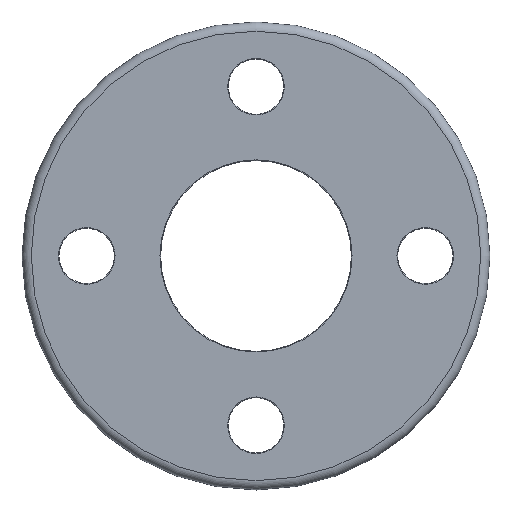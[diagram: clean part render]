
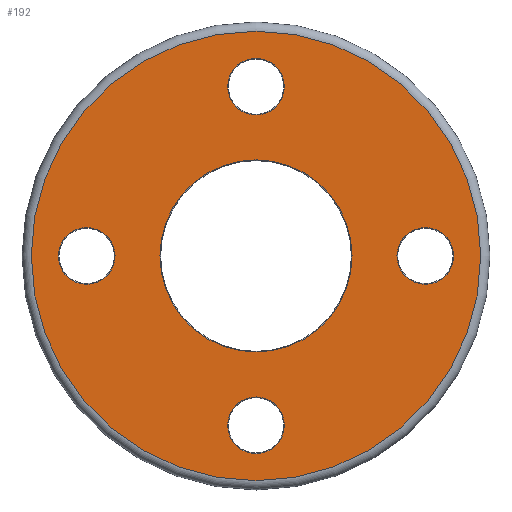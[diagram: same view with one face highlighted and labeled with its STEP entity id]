
A CAD part, top view. The second image highlights one B-rep face of the part: STEP entity #192.
In plain terms, the highlighted planar face has unit normal (0, 0, 1).
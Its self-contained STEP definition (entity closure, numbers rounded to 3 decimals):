
#21=PLANE('',#210);
#24=FACE_BOUND('',#62,.T.);
#25=FACE_BOUND('',#63,.T.);
#26=FACE_BOUND('',#64,.T.);
#27=FACE_BOUND('',#65,.T.);
#28=FACE_BOUND('',#66,.T.);
#46=FACE_OUTER_BOUND('',#61,.T.);
#61=EDGE_LOOP('',(#151));
#62=EDGE_LOOP('',(#152));
#63=EDGE_LOOP('',(#153));
#64=EDGE_LOOP('',(#154));
#65=EDGE_LOOP('',(#155));
#66=EDGE_LOOP('',(#156));
#96=CIRCLE('',#209,31.2);
#97=CIRCLE('',#211,73.);
#98=CIRCLE('',#212,9.2);
#99=CIRCLE('',#213,9.2);
#100=CIRCLE('',#214,9.2);
#101=CIRCLE('',#215,9.2);
#114=VERTEX_POINT('',#309);
#115=VERTEX_POINT('',#312);
#116=VERTEX_POINT('',#314);
#117=VERTEX_POINT('',#316);
#118=VERTEX_POINT('',#318);
#119=VERTEX_POINT('',#320);
#132=EDGE_CURVE('',#114,#114,#96,.T.);
#133=EDGE_CURVE('',#115,#115,#97,.T.);
#134=EDGE_CURVE('',#116,#116,#98,.T.);
#135=EDGE_CURVE('',#117,#117,#99,.T.);
#136=EDGE_CURVE('',#118,#118,#100,.T.);
#137=EDGE_CURVE('',#119,#119,#101,.T.);
#151=ORIENTED_EDGE('',*,*,#133,.F.);
#152=ORIENTED_EDGE('',*,*,#134,.F.);
#153=ORIENTED_EDGE('',*,*,#135,.F.);
#154=ORIENTED_EDGE('',*,*,#136,.F.);
#155=ORIENTED_EDGE('',*,*,#137,.F.);
#156=ORIENTED_EDGE('',*,*,#132,.F.);
#192=ADVANCED_FACE('',(#46,#24,#25,#26,#27,#28),#21,.T.);
#209=AXIS2_PLACEMENT_3D('',#310,#245,#246);
#210=AXIS2_PLACEMENT_3D('',#311,#247,#248);
#211=AXIS2_PLACEMENT_3D('',#313,#249,#250);
#212=AXIS2_PLACEMENT_3D('',#315,#251,#252);
#213=AXIS2_PLACEMENT_3D('',#317,#253,#254);
#214=AXIS2_PLACEMENT_3D('',#319,#255,#256);
#215=AXIS2_PLACEMENT_3D('',#321,#257,#258);
#245=DIRECTION('center_axis',(0.,0.,1.));
#246=DIRECTION('ref_axis',(-1.,0.,0.));
#247=DIRECTION('center_axis',(0.,0.,1.));
#248=DIRECTION('ref_axis',(1.,0.,0.));
#249=DIRECTION('center_axis',(0.,0.,-1.));
#250=DIRECTION('ref_axis',(-1.,0.,0.));
#251=DIRECTION('center_axis',(0.,0.,1.));
#252=DIRECTION('ref_axis',(1.,0.,0.));
#253=DIRECTION('center_axis',(0.,0.,1.));
#254=DIRECTION('ref_axis',(-1.,0.,0.));
#255=DIRECTION('center_axis',(0.,0.,1.));
#256=DIRECTION('ref_axis',(0.,-1.,0.));
#257=DIRECTION('center_axis',(0.,0.,1.));
#258=DIRECTION('ref_axis',(0.,1.,0.));
#309=CARTESIAN_POINT('',(31.2,0.,16.));
#310=CARTESIAN_POINT('Origin',(0.,0.,16.));
#311=CARTESIAN_POINT('Origin',(0.,0.,
16.));
#312=CARTESIAN_POINT('',(73.,0.,16.));
#313=CARTESIAN_POINT('Origin',(0.,0.,16.));
#314=CARTESIAN_POINT('',(-9.2,-55.,16.));
#315=CARTESIAN_POINT('Origin',(0.,-55.,16.));
#316=CARTESIAN_POINT('',(9.2,55.,16.));
#317=CARTESIAN_POINT('Origin',(0.,55.,16.));
#318=CARTESIAN_POINT('',(-55.,9.2,16.));
#319=CARTESIAN_POINT('Origin',(-55.,0.,16.));
#320=CARTESIAN_POINT('',(55.,-9.2,16.));
#321=CARTESIAN_POINT('Origin',(55.,0.,16.));
